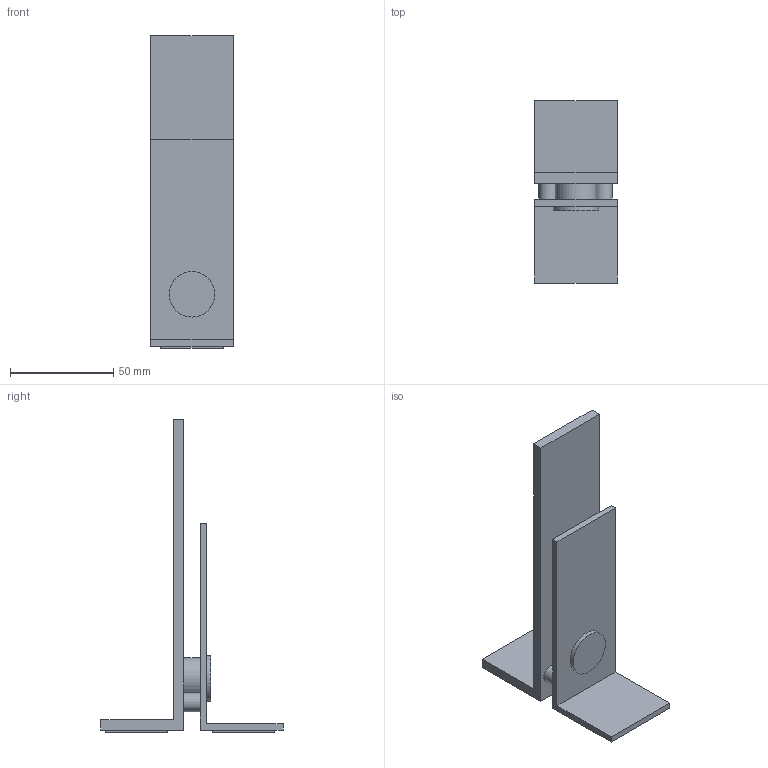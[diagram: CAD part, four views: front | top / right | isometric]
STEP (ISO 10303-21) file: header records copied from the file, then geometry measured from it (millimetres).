
FILE_DESCRIPTION( ( 'STEP AP214' ), '1' );
FILE_NAME( 'D:/Yug/2022/Actiforce_2022/QC/9309840.stp', '2022-03-02T07:24:23', ( '' ), ( '' ), ' ', 'PARTsolutions', ' ' );
FILE_SCHEMA( ( 'AUTOMOTIVE_DESIGN { 1 0 10303 214 1 1 1 1 }' ) );
Length unit declared in the file: millimetre
Products named in the file (1): _9309840
Bounding box: 40 x 88 x 151.1 mm (x, y, z)
Volume: 59698.7 mm3; surface area: 29795.3 mm2
Topology: 1 solids, 1 shells, 33 faces, 73 edges, 49 vertices
Faces by surface type: plane 29, cylinder 4
Full cylindrical faces by diameter (mm): 9 x2, 20 x1, 22 x1
Entity records: 1154 total; most frequent: CARTESIAN_POINT 150, DIRECTION 144, ORIENTED_EDGE 136, EDGE_CURVE 68, LINE 60, VECTOR 60, VERTEX_POINT 48, EDGE_LOOP 44
